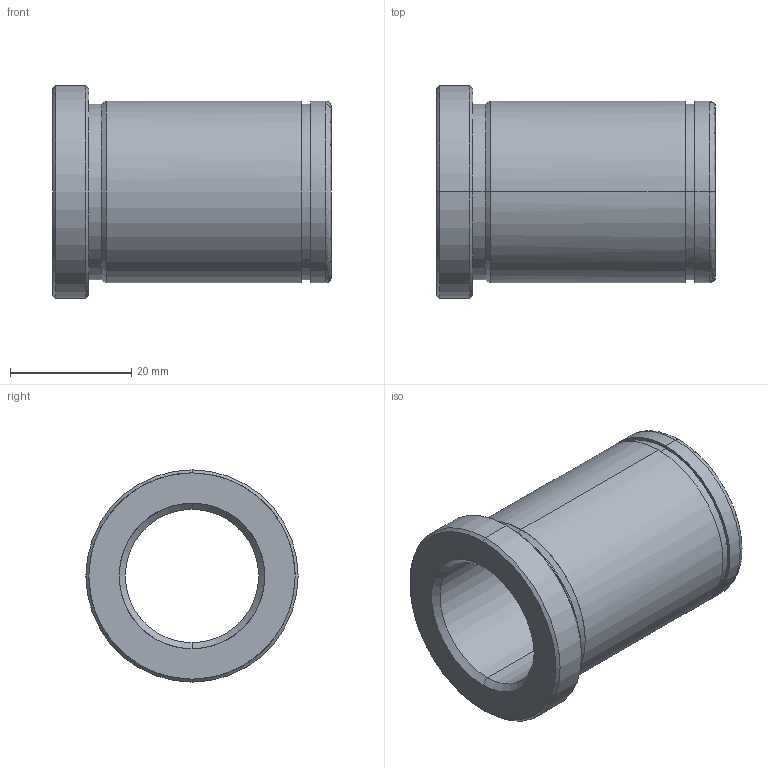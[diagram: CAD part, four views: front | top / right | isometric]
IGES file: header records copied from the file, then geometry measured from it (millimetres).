
Start section: START RECORD GO HERE.
Global section: file name: 553-22X46.igs; native system: DASSAULT SYSTEMES CATIA V5 R20 - www.3ds.com; preprocessor: CATIA Version 5 Release 20 ; author: Utente; organization: NB04-ASUS; date: 20210525.201150; units: millimetre
Bounding box: 46 x 35 x 35 mm (x, y, z)
Surface area: 8723 mm2 (no closed solid volume)
Topology: 0 solids, 0 shells, 29 faces, 184 edges, 184 vertices
Faces by surface type: revolution 24, plane 5
